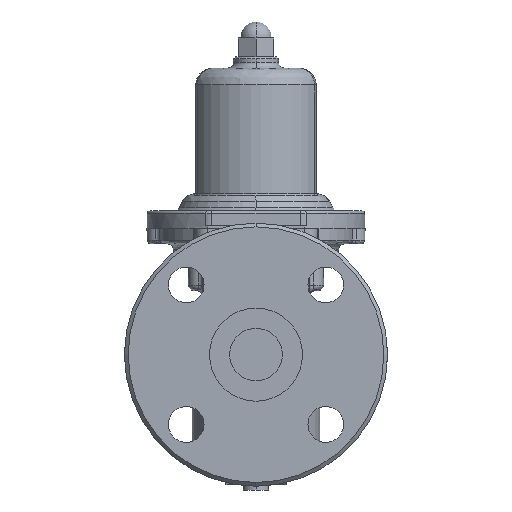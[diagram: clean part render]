
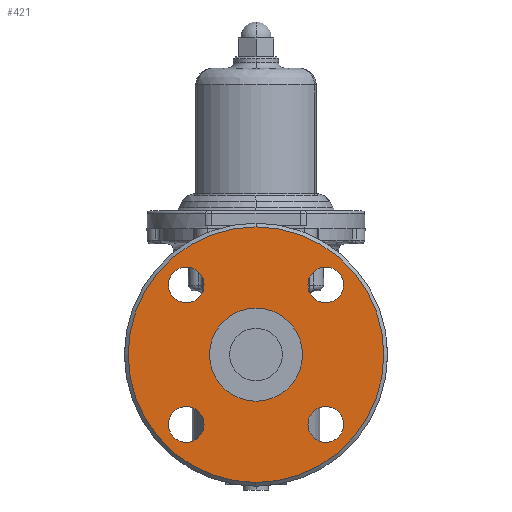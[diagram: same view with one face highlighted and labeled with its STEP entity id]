
A CAD part, left-side view. The second image highlights one B-rep face of the part: STEP entity #421.
In plain terms, the highlighted planar face has unit normal (-1, 0, 0).
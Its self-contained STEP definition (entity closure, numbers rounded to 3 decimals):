
#421=ADVANCED_FACE('',(#4468,#4469,#4470,#4471,#4472,#4473),#4467,.F.);
#4467=PLANE('',#12333);
#4468=FACE_OUTER_BOUND('',#12334,.T.);
#4469=FACE_BOUND('',#12335,.T.);
#4470=FACE_BOUND('',#12336,.T.);
#4471=FACE_BOUND('',#12337,.T.);
#4472=FACE_BOUND('',#12338,.T.);
#4473=FACE_BOUND('',#12339,.T.);
#12330=CARTESIAN_POINT('',(-122.5,-127.779,78.));
#12331=DIRECTION('',(1.,0.,0.));
#12332=DIRECTION('',(0.,0.,-1.));
#12333=AXIS2_PLACEMENT_3D('',#12330,#12331,#12332);
#12334=EDGE_LOOP('',(#16430,#16431));
#12335=EDGE_LOOP('',(#16432,#16433));
#12336=EDGE_LOOP('',(#16434,#16435));
#12337=EDGE_LOOP('',(#16436,#16437));
#12338=EDGE_LOOP('',(#16438,#16439));
#12339=EDGE_LOOP('',(#16440,#16441));
#16430=ORIENTED_EDGE('',*,*,#18532,.T.);
#16431=ORIENTED_EDGE('',*,*,#18533,.T.);
#16432=ORIENTED_EDGE('',*,*,#18534,.F.);
#16433=ORIENTED_EDGE('',*,*,#18535,.F.);
#16434=ORIENTED_EDGE('',*,*,#18536,.F.);
#16435=ORIENTED_EDGE('',*,*,#18537,.F.);
#16436=ORIENTED_EDGE('',*,*,#18538,.F.);
#16437=ORIENTED_EDGE('',*,*,#18539,.F.);
#16438=ORIENTED_EDGE('',*,*,#18540,.F.);
#16439=ORIENTED_EDGE('',*,*,#18541,.F.);
#16440=ORIENTED_EDGE('',*,*,#18542,.T.);
#16441=ORIENTED_EDGE('',*,*,#18543,.T.);
#18532=EDGE_CURVE('',#26037,#26038,#26039,.T.);
#18533=EDGE_CURVE('',#26038,#26037,#26045,.T.);
#18534=EDGE_CURVE('',#26051,#26052,#26053,.T.);
#18535=EDGE_CURVE('',#26052,#26051,#26059,.T.);
#18536=EDGE_CURVE('',#26065,#26066,#26067,.T.);
#18537=EDGE_CURVE('',#26066,#26065,#26073,.T.);
#18538=EDGE_CURVE('',#26079,#26080,#26081,.T.);
#18539=EDGE_CURVE('',#26080,#26079,#26087,.T.);
#18540=EDGE_CURVE('',#26093,#26094,#26095,.T.);
#18541=EDGE_CURVE('',#26094,#26093,#26101,.T.);
#18542=EDGE_CURVE('',#26107,#26108,#26109,.T.);
#18543=EDGE_CURVE('',#26108,#26107,#26115,.T.);
#26037=VERTEX_POINT('',#34411);
#26038=VERTEX_POINT('',#34412);
#26039=CIRCLE('',#34416,68.);
#26045=CIRCLE('',#34420,68.);
#26051=VERTEX_POINT('',#34421);
#26052=VERTEX_POINT('',#34422);
#26053=CIRCLE('',#34426,9.5);
#26059=CIRCLE('',#34430,9.5);
#26065=VERTEX_POINT('',#34431);
#26066=VERTEX_POINT('',#34432);
#26067=CIRCLE('',#34436,9.5);
#26073=CIRCLE('',#34440,9.5);
#26079=VERTEX_POINT('',#34441);
#26080=VERTEX_POINT('',#34442);
#26081=CIRCLE('',#34446,9.5);
#26087=CIRCLE('',#34450,9.5);
#26093=VERTEX_POINT('',#34451);
#26094=VERTEX_POINT('',#34452);
#26095=CIRCLE('',#34456,9.5);
#26101=CIRCLE('',#34460,9.5);
#26107=VERTEX_POINT('',#34461);
#26108=VERTEX_POINT('',#34462);
#26109=CIRCLE('',#34466,24.75);
#26115=CIRCLE('',#34470,24.75);
#34411=CARTESIAN_POINT('',(-122.5,0.,68.));
#34412=CARTESIAN_POINT('',(-122.5,0.,-68.));
#34413=CARTESIAN_POINT('',(-122.5,0.,0.));
#34414=DIRECTION('',(-1.,0.,0.));
#34415=DIRECTION('',(0.,0.,1.));
#34416=AXIS2_PLACEMENT_3D('',#34413,#34414,#34415);
#34417=CARTESIAN_POINT('',(-122.5,0.,0.));
#34418=DIRECTION('',(-1.,0.,0.));
#34419=DIRECTION('',(0.,0.,1.));
#34420=AXIS2_PLACEMENT_3D('',#34417,#34418,#34419);
#34421=CARTESIAN_POINT('',(-122.5,37.123,46.623));
#34422=CARTESIAN_POINT('',(-122.5,37.123,27.623));
#34423=CARTESIAN_POINT('',(-122.5,37.123,37.123));
#34424=DIRECTION('',(-1.,0.,0.));
#34425=DIRECTION('',(0.,0.,-1.));
#34426=AXIS2_PLACEMENT_3D('',#34423,#34424,#34425);
#34427=CARTESIAN_POINT('',(-122.5,37.123,37.123));
#34428=DIRECTION('',(-1.,0.,0.));
#34429=DIRECTION('',(0.,0.,-1.));
#34430=AXIS2_PLACEMENT_3D('',#34427,#34428,#34429);
#34431=CARTESIAN_POINT('',(-122.5,37.123,-27.623));
#34432=CARTESIAN_POINT('',(-122.5,37.123,-46.623));
#34433=CARTESIAN_POINT('',(-122.5,37.123,-37.123));
#34434=DIRECTION('',(-1.,0.,0.));
#34435=DIRECTION('',(0.,0.,-1.));
#34436=AXIS2_PLACEMENT_3D('',#34433,#34434,#34435);
#34437=CARTESIAN_POINT('',(-122.5,37.123,-37.123));
#34438=DIRECTION('',(-1.,0.,0.));
#34439=DIRECTION('',(0.,0.,-1.));
#34440=AXIS2_PLACEMENT_3D('',#34437,#34438,#34439);
#34441=CARTESIAN_POINT('',(-122.5,-37.123,-27.623));
#34442=CARTESIAN_POINT('',(-122.5,-37.123,-46.623));
#34443=CARTESIAN_POINT('',(-122.5,-37.123,-37.123));
#34444=DIRECTION('',(-1.,0.,0.));
#34445=DIRECTION('',(0.,0.,-1.));
#34446=AXIS2_PLACEMENT_3D('',#34443,#34444,#34445);
#34447=CARTESIAN_POINT('',(-122.5,-37.123,-37.123));
#34448=DIRECTION('',(-1.,0.,0.));
#34449=DIRECTION('',(0.,0.,-1.));
#34450=AXIS2_PLACEMENT_3D('',#34447,#34448,#34449);
#34451=CARTESIAN_POINT('',(-122.5,-37.123,46.623));
#34452=CARTESIAN_POINT('',(-122.5,-37.123,27.623));
#34453=CARTESIAN_POINT('',(-122.5,-37.123,37.123));
#34454=DIRECTION('',(-1.,0.,0.));
#34455=DIRECTION('',(0.,0.,-1.));
#34456=AXIS2_PLACEMENT_3D('',#34453,#34454,#34455);
#34457=CARTESIAN_POINT('',(-122.5,-37.123,37.123));
#34458=DIRECTION('',(-1.,0.,0.));
#34459=DIRECTION('',(0.,0.,-1.));
#34460=AXIS2_PLACEMENT_3D('',#34457,#34458,#34459);
#34461=CARTESIAN_POINT('',(-122.5,0.,-24.75));
#34462=CARTESIAN_POINT('',(-122.5,0.,24.75));
#34463=CARTESIAN_POINT('',(-122.5,0.,0.));
#34464=DIRECTION('',(1.,0.,0.));
#34465=DIRECTION('',(0.,0.,-1.));
#34466=AXIS2_PLACEMENT_3D('',#34463,#34464,#34465);
#34467=CARTESIAN_POINT('',(-122.5,0.,0.));
#34468=DIRECTION('',(1.,0.,0.));
#34469=DIRECTION('',(0.,0.,-1.));
#34470=AXIS2_PLACEMENT_3D('',#34467,#34468,#34469);
